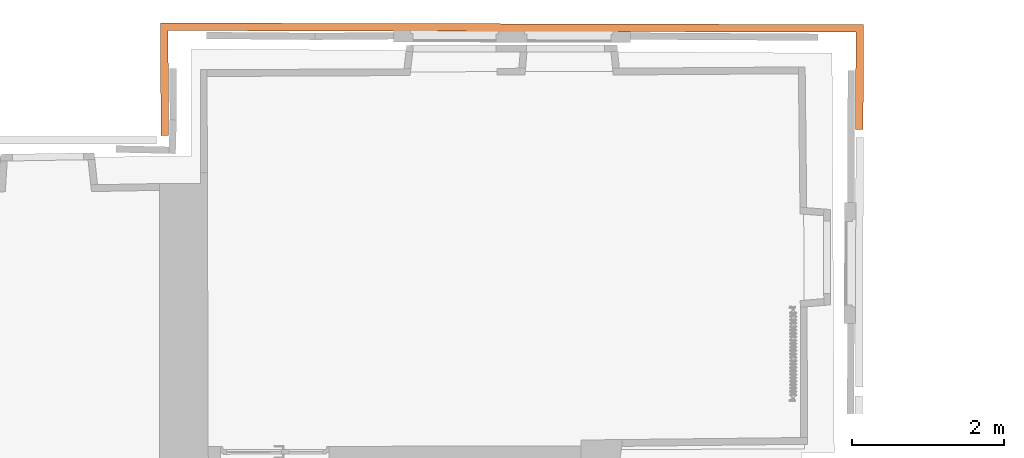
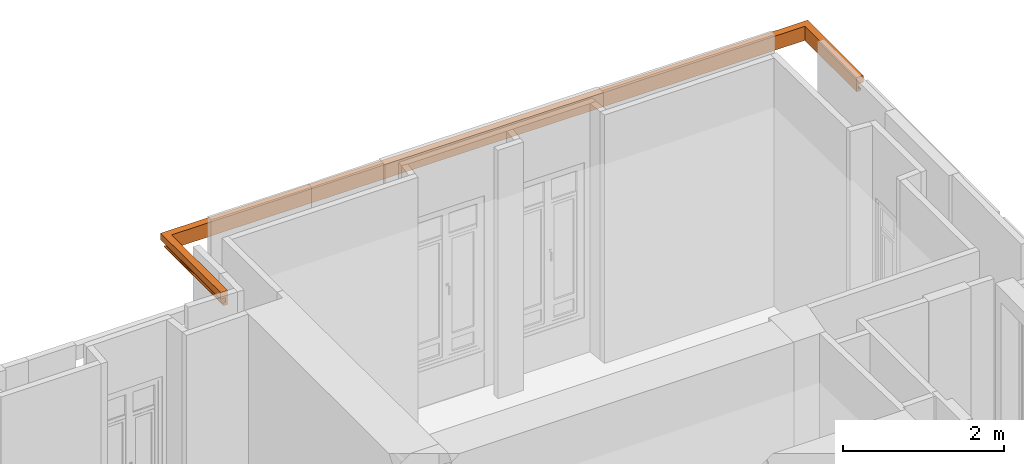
# One storey, part 66 of 66: 1 proxy.
"""IFC2X3 building model written with IfcOpenShell, lengths in centimetres."""

from ifc_helpers import new_model, entity, si_unit, converted_unit, direction, frame, origin, origin_with_axes, place, context, subcontext, project, spatial, faceted_brep, material, type_object, element, save


model = new_model("IFC2X3")

# Units and contexts
model_context = context("Model", 3, precision=0.0001, world=origin(), true_north=direction((0.225632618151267, 0.974212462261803, 0.0)))
body_context = subcontext(model_context, "Body", "Model", "MODEL_VIEW")
ifc_project = project(units=[si_unit("LENGTHUNIT", "METRE", prefix="CENTI"), si_unit("AREAUNIT", "SQUARE_METRE", prefix="CENTI"), si_unit("VOLUMEUNIT", "CUBIC_METRE", prefix="CENTI"), converted_unit("PLANEANGLEUNIT", "DEGREE", entity("IfcRatioMeasure", 0.0174532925), si_unit("PLANEANGLEUNIT", "RADIAN"), dimensions=[0, 0, 0, 0, 0, 0, 0])], contexts=[model_context])

# Site, building, storey
site_placement = place(None, origin_with_axes())
site = spatial("IfcSite", under=ifc_project, at=site_placement, Name="Default Site", CompositionType="ELEMENT")
building_placement = place(site_placement, origin_with_axes())
building = spatial("IfcBuilding", under=site, at=building_placement, Name="Default Building", CompositionType="ELEMENT")
storey_placement = place(building_placement, frame((0.0, 0.0, 477.795358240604), z_axis=(0.0, 0.0, 1.0), x_axis=(1.0, 0.0, 0.0)))
storey = spatial("IfcBuildingStorey", under=building, at=storey_placement, Name="Niveau 1", CompositionType="ELEMENT", Elevation=477.795358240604)

# Proxy
ifc_material = material(Name="Aluminium mat")
building_element_proxy_type = type_object("IfcBuildingElementProxyType", Name="Corniche niv1", PredefinedType="NOTDEFINED", material=ifc_material)
proxy_placement = place(storey_placement, origin_with_axes())
element("IfcBuildingElementProxy", 1, at=proxy_placement, inside=storey, type_object=building_element_proxy_type, material=ifc_material, Name="Extrusion (solide) 449951", context=body_context, shape_type="Brep", body=[
    faceted_brep([(244.877982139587, 760.622549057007, 364.399961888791), (234.866428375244, 770.631694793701, 364.39996188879), (235.242390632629, 622.049760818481, 364.399961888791), (245.228576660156, 622.07498550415, 364.399961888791), (234.866428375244, 770.631694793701, 364.399961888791), (234.866428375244, 770.631694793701, 354.40001910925), (235.242399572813, 622.049760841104, 354.40001910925), (235.242399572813, 622.049760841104, 364.399961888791), (241.870379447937, 763.62943649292, 354.40001910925), (242.228579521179, 622.067403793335, 354.40001910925), (235.242390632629, 622.049760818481, 354.40001910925), (241.870379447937, 763.62943649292, 347.100023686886), (242.228587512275, 622.067403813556, 347.100023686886), (242.228587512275, 622.067403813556, 354.40001910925), (239.395618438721, 766.103601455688, 347.100023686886), (239.760112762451, 622.061157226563, 347.100023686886), (242.228579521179, 622.067403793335, 347.100023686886), (239.038258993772, 766.460895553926, 346.875614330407), (239.403639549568, 622.06025126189, 346.875607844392), (239.760109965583, 622.061157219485, 347.100028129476), (239.038252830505, 766.46089553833, 346.875624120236), (238.72788776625, 766.771173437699, 346.589920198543), (239.094070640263, 622.059488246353, 346.589924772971), (239.403635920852, 622.060251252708, 346.875616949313), (238.727903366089, 766.771173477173, 346.589903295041), (238.475033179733, 767.023992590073, 346.252573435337), (238.841856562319, 622.05886844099, 346.252579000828), (239.09408457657, 622.059488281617, 346.589907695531), (238.475012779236, 767.023992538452, 346.252588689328), (238.288046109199, 767.210864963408, 345.874849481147), (238.655342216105, 622.058391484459, 345.874855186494), (238.841834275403, 622.058868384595, 346.252593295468), (238.288068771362, 767.210865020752, 345.874838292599), (238.173323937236, 767.325591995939, 345.469436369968), (238.540907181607, 622.058105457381, 345.469432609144), (238.655363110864, 622.058391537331, 345.874842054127), (238.173341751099, 767.325592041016, 345.469431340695), (238.134665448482, 767.364263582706, 345.050003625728), (238.502347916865, 622.058010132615, 345.050004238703), (238.5409259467, 622.058105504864, 345.469430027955), (238.13464641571, 767.364263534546, 345.050005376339), (238.173322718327, 767.325591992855, 344.630577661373), (238.540906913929, 622.058105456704, 344.630578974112), (238.502328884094, 622.058010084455, 345.050004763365), (238.173341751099, 767.325592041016, 344.630579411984), (238.288086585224, 767.210865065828, 344.225177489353), (238.655380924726, 622.058391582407, 344.225173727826), (238.540924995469, 622.058105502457, 344.630583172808), (238.288068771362, 767.210865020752, 344.22517246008), (238.4750354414, 767.023992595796, 343.847433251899), (238.841856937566, 622.05886844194, 343.847428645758), (238.655364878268, 622.058391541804, 344.225166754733), (238.475012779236, 767.023992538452, 343.847422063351), (238.727882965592, 766.771173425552, 343.510092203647), (239.094064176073, 622.059488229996, 343.510087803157), (238.841836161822, 622.058868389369, 343.847416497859), (238.727903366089, 766.771173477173, 343.510107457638), (239.038268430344, 766.460895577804, 343.224403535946), (239.40365152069, 622.060251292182, 343.224410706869), (239.094086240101, 622.059488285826, 343.510102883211), (239.038252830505, 766.46089553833, 343.224386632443), (239.395612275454, 766.103601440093, 342.999977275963), (239.760103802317, 622.06115720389, 342.999972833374), (239.403633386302, 622.060251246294, 343.224393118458), (239.395618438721, 766.103601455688, 342.999987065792), (244.877982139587, 760.622549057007, 342.999987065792), (245.228576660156, 622.07498550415, 342.999987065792), (239.760112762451, 622.061157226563, 342.999987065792), (245.228562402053, 622.074985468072, 364.399961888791), (245.228562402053, 622.074985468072, 342.999987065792), (1151.12266540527, 758.549976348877, 364.399961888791), (1161.13166809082, 768.513345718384, 364.399961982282), (234.866428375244, 770.631694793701, 364.39995765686), (244.877982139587, 760.622549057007, 364.39995765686), (1161.13166809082, 768.513345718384, 364.399961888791), (1161.13166809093, 768.513345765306, 354.40001910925), (234.866428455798, 770.631730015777, 354.40001910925), (234.86642845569, 770.631729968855, 364.399961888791), (1161.13166809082, 768.513345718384, 354.40001910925), (1154.12950515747, 761.543083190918, 354.400019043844), (241.870379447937, 763.62943649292, 354.400014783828), (234.866428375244, 770.631694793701, 354.400014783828), (1154.12950515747, 761.543083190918, 354.40001910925), (1154.12950515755, 761.543083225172, 347.100023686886), (241.870379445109, 763.629435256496, 347.100023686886), (241.870379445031, 763.629435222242, 354.40001910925), (1154.12950515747, 761.543083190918, 347.100023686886), (1156.60362243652, 764.005947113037, 347.100023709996), (239.395618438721, 766.103601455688, 347.10001942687), (241.870379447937, 763.62943649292, 347.10001942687), (1156.60362243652, 764.005947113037, 347.100023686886), (1156.96086883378, 764.361571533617, 346.875622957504), (239.038252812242, 766.460887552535, 346.87561143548), (239.395618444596, 766.103604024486, 347.100027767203), (1156.96086883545, 764.361572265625, 346.875624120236), (1157.27119450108, 764.670438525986, 346.589923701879), (238.727903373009, 766.771176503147, 346.589906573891), (239.038252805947, 766.460884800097, 346.875612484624), (1157.27119445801, 764.670419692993, 346.589903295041), (1157.52401346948, 764.922072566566, 346.252572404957), (238.475012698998, 767.023957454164, 346.252562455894), (238.727903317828, 766.771152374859, 346.589887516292), (1157.52401351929, 764.922094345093, 346.252588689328), (1157.71083833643, 765.108164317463, 345.874842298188), (238.288068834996, 767.210892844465, 345.87485202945), (238.475012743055, 767.023976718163, 346.25258087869), (1157.71083831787, 765.108156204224, 345.874838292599), (1157.82556531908, 765.222350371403, 345.469428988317), (238.173341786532, 767.325607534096, 345.469435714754), (238.288068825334, 767.210888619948, 345.874844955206), (1157.82556533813, 765.222358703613, 345.469431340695), (1157.8642845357, 765.260848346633, 345.050006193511), (238.134646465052, 767.364285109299, 345.050007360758), (238.17334181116, 767.325618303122, 345.46943375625), (1157.86428451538, 765.26083946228, 345.050005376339), (1157.82556531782, 765.222349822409, 344.630580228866), (238.1733417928, 767.325610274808, 344.630577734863), (238.134646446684, 767.364277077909, 345.050004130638), (1157.82556533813, 765.222358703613, 344.630579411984), (1157.71083833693, 765.108164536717, 344.225170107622), (238.288068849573, 767.21089921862, 344.22516280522), (238.173341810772, 767.32561813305, 344.630572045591), (1157.71083831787, 765.108156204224, 344.22517246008), (1157.52401350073, 764.922086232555, 343.847426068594), (238.4750127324, 767.02397205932, 343.847432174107), (238.288068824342, 767.210888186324, 344.225161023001), (1157.52401351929, 764.922094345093, 343.847422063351), (1157.27119450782, 764.670441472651, 343.510091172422), (238.727903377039, 766.771178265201, 343.510103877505), (238.475012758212, 767.023983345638, 343.847428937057), (1157.27119445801, 764.670419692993, 343.510107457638), (1156.96086879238, 764.361553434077, 343.224407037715), (239.038252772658, 766.460870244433, 343.224414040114), (238.727903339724, 766.771161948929, 343.51011994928), (1156.96086883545, 764.361572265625, 343.224386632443), (1156.6036224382, 764.005947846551, 342.999985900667), (239.39561845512, 766.103608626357, 342.999975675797), (239.03825282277, 766.460892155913, 343.224392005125), (1156.60362243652, 764.005947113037, 342.999987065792), (1151.12266540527, 758.549976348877, 342.999987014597), (244.877982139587, 760.622549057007, 342.999982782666), (239.395618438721, 766.103601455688, 342.999982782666), (1151.12266540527, 758.549976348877, 342.999987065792), (1151.12266540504, 758.549976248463, 364.399961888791), (244.877982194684, 760.622573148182, 364.399961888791), (244.877982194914, 760.622573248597, 342.999987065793), (1150.82883834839, 630.085897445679, 364.399961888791), (1160.81504821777, 630.063056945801, 364.399961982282), (1161.13166809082, 768.513345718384, 364.399961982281), (1151.12266540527, 758.549976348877, 364.39996188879), (1160.81504821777, 630.063056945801, 364.399961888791), (1160.81504831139, 630.063056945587, 354.40001910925), (1161.13168646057, 768.513345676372, 354.40001910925), (1161.13168636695, 768.513345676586, 364.399961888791), (1160.81504821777, 630.063056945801, 354.40001910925), (1153.82881164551, 630.079030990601, 354.400019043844), (1161.13166809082, 768.513345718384, 354.400019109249), (1153.82881164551, 630.079030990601, 354.40001910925), (1153.82881171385, 630.079030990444, 347.100023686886), (1154.12947222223, 761.543083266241, 347.100023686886), (1154.12947215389, 761.543083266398, 354.400019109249), (1153.82881164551, 630.079030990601, 347.100023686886), (1156.29730224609, 630.073404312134, 347.100023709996), (1156.29730224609, 630.073404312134, 347.100023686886), (1156.65377272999, 630.07259371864, 346.875603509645), (1156.96086665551, 764.361572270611, 346.875620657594), (1156.60361840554, 764.005947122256, 347.100017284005), (1156.65378570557, 630.072593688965, 346.875624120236), (1156.96336392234, 630.071878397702, 346.589920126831), (1157.27120221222, 764.670419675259, 346.589911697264), (1156.96088633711, 764.361572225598, 346.875643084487), (1156.96334838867, 630.071878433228, 346.589903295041), (1157.21557647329, 630.07130627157, 346.252574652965), (1157.52398690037, 764.922094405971, 346.252568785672), (1157.27118360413, 764.670419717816, 346.589895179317), (1157.21559524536, 630.071306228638, 346.252588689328), (1157.40208273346, 630.070876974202, 345.874860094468), (1157.71090885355, 765.108156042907, 345.874873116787), (1157.52400368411, 764.922094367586, 346.252583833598), (1157.40203857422, 630.070877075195, 345.874838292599), (1157.51649286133, 630.070638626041, 345.469435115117), (1157.82558650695, 765.2223586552, 345.469437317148), (1157.71086869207, 765.108156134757, 345.874846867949), (1157.51647949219, 630.070638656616, 345.469431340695), (1157.55505793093, 630.070543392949, 345.050001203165), (1157.8642404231, 765.26083956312, 345.050001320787), (1157.82557370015, 765.222358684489, 345.469432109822), (1157.555103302, 630.070543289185, 345.050005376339), (1157.5165248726, 630.07063855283, 344.630575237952), (1157.82561908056, 765.222358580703, 344.630574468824), (1157.86428579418, 765.260839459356, 345.050005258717), (1157.51647949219, 630.070638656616, 344.630579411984), (1157.40202521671, 630.070877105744, 344.225176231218), (1157.71085533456, 765.108156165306, 344.225167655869), (1157.82557313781, 765.222358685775, 344.630577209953), (1157.40203857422, 630.070877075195, 344.22517246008), (1157.21555109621, 630.071306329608, 343.847443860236), (1157.52395953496, 764.922094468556, 343.847448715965), (1157.71086469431, 765.1081561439, 344.225159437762), (1157.21559524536, 630.071306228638, 343.847422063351), (1156.96336716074, 630.071878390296, 343.510093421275), (1157.2712023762, 764.670419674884, 343.510101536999), (1157.52400567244, 764.922094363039, 343.847427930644), (1156.96334838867, 630.071878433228, 343.510107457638), (1156.6537701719, 630.072593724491, 343.224403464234), (1156.96087080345, 764.361572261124, 343.224384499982), (1157.27118667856, 764.670419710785, 343.510115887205), (1156.65378570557, 630.072593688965, 343.224386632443), (1156.29731522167, 630.073404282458, 342.999966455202), (1156.60363138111, 764.005947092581, 342.999972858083), (1156.96087963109, 764.361572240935, 343.224369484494), (1156.29730224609, 630.073404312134, 342.999987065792), (1150.82883834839, 630.085897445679, 342.999987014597), (1151.12266540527, 758.549976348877, 342.999987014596), (1156.60362243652, 764.005947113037, 342.999987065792), (1150.82883834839, 630.085897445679, 342.999987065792), (1150.82883814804, 630.085897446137, 364.399961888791), (1151.12263766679, 758.549976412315, 364.39996188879), (1151.12263786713, 758.549976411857, 342.999987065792), (235.242390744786, 622.049716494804, 364.399961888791), (235.242390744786, 622.049716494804, 354.40001910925), (242.228579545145, 622.067394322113, 354.40001910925), (242.228579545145, 622.067394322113, 347.100023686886), (239.760112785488, 622.061148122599, 347.100023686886), (239.40362931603, 622.060246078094, 346.875624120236), (239.094090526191, 622.059462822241, 346.589903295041), (238.841843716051, 622.058824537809, 346.252588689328), (238.65537653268, 622.058352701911, 345.874838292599), (238.540911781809, 622.058063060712, 345.469431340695), (238.502335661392, 622.057965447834, 345.050005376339), (238.540911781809, 622.058063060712, 344.630579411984), (238.65537653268, 622.058352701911, 344.22517246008), (238.841843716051, 622.058824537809, 343.847422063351), (239.094090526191, 622.059462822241, 343.510107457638), (239.40362931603, 622.060246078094, 343.224386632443), (239.760112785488, 622.061148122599, 342.999987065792), (1156.29730221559, 630.073390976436, 342.999987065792), (1156.65378566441, 630.072575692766, 343.224386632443), (1156.96334836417, 630.071867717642, 343.510107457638), (1157.21559521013, 630.071290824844, 343.847422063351), (1157.40203854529, 630.070864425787, 344.22517246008), (1157.51647940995, 630.070602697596, 344.630579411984), (1157.55510323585, 630.070514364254, 345.050005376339), (1157.51647940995, 630.070602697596, 345.469431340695), (1157.40203854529, 630.070864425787, 345.874838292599), (1157.21559521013, 630.071290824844, 346.252588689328), (1156.96334836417, 630.071867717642, 346.589903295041), (1156.65378566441, 630.072575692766, 346.875624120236), (1156.29730221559, 630.073390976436, 347.100023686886), (1153.82881165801, 630.079036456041, 347.100023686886), (1153.82881165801, 630.079036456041, 354.40001910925), (1160.81504822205, 630.063058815, 354.40001910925), (1160.81504822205, 630.063058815, 364.399961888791)], [[[0, 1, 2, 3]], [[4, 5, 6, 7]], [[5, 8, 9, 10]], [[8, 11, 12, 13]], [[11, 14, 15, 16]], [[14, 17, 18, 19]], [[20, 21, 22, 23]], [[24, 25, 26, 27]], [[28, 29, 30, 31]], [[32, 33, 34, 35]], [[36, 37, 38, 39]], [[40, 41, 42, 43]], [[44, 45, 46, 47]], [[48, 49, 50, 51]], [[52, 53, 54, 55]], [[56, 57, 58, 59]], [[60, 61, 62, 63]], [[64, 65, 66, 67]], [[65, 0, 68, 69]], [[70, 71, 72, 73]], [[74, 75, 76, 77]], [[78, 79, 80, 81]], [[82, 83, 84, 85]], [[86, 87, 88, 89]], [[90, 91, 92, 93]], [[94, 95, 96, 97]], [[98, 99, 100, 101]], [[102, 103, 104, 105]], [[106, 107, 108, 109]], [[110, 111, 112, 113]], [[114, 115, 116, 117]], [[118, 119, 120, 121]], [[122, 123, 124, 125]], [[126, 127, 128, 129]], [[130, 131, 132, 133]], [[134, 135, 136, 137]], [[138, 139, 140, 141]], [[142, 143, 144, 145]], [[146, 147, 148, 149]], [[150, 151, 152, 153]], [[154, 155, 79, 156]], [[157, 158, 159, 160]], [[161, 162, 87, 86]], [[163, 164, 165, 166]], [[167, 168, 169, 170]], [[171, 172, 173, 174]], [[175, 176, 177, 178]], [[179, 180, 181, 182]], [[183, 184, 185, 186]], [[187, 188, 189, 190]], [[191, 192, 193, 194]], [[195, 196, 197, 198]], [[199, 200, 201, 202]], [[203, 204, 205, 206]], [[207, 208, 209, 210]], [[211, 212, 213, 214]], [[215, 216, 217, 218]], [[3, 219, 220, 221, 222, 223, 224, 225, 226, 227, 228, 229, 230, 231, 232, 233, 234, 235, 66]], [[215, 236, 237, 238, 239, 240, 241, 242, 243, 244, 245, 246, 247, 248, 249, 250, 251, 252, 146]]]),
])

save(model, "model.ifc")
